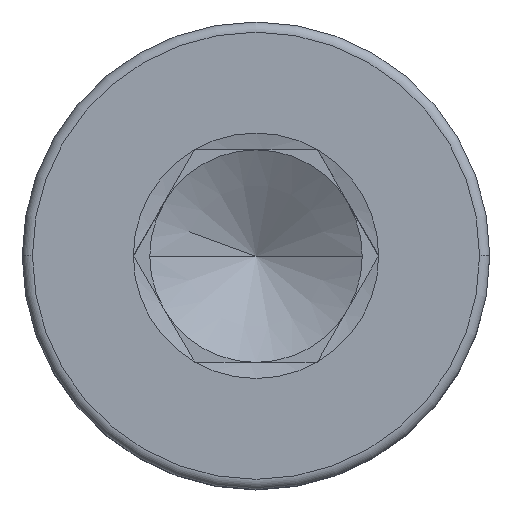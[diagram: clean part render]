
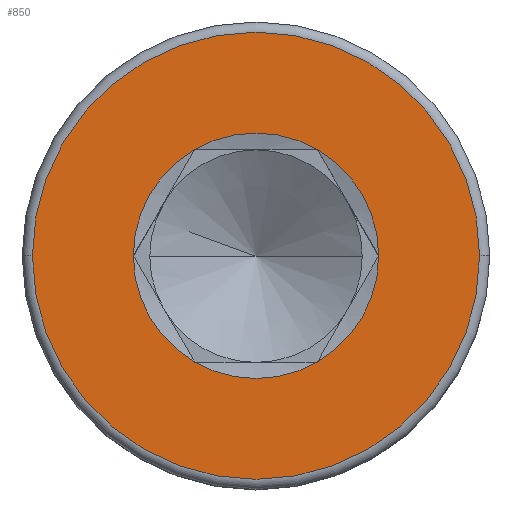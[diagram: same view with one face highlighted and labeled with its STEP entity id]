
A CAD part, top view. The second image highlights one B-rep face of the part: STEP entity #850.
In plain terms, the highlighted planar face has unit normal (0, 0, 1).
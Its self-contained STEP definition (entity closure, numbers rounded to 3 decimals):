
#32 = AXIS2_PLACEMENT_3D ( 'NONE', #741, #1591, #1568 ) ;
#124 = DIRECTION ( 'NONE',  ( 0., 0., 1. ) ) ;
#151 = CIRCLE ( 'NONE', #32, 2.63 ) ;
#195 = ORIENTED_EDGE ( 'NONE', *, *, #1472, .F. ) ;
#203 = CARTESIAN_POINT ( 'NONE',  ( 0., 0., 3. ) ) ;
#280 = CARTESIAN_POINT ( 'NONE',  ( 0.722, 1.25, 3. ) ) ;
#319 = EDGE_LOOP ( 'NONE', ( #390, #1843, #195, #682, #1585, #888 ) ) ;
#328 = CIRCLE ( 'NONE', #702, 2.63 ) ;
#330 = VERTEX_POINT ( 'NONE', #280 ) ;
#343 = DIRECTION ( 'NONE',  ( 0., 0., 1. ) ) ;
#347 = CARTESIAN_POINT ( 'NONE',  ( 0., 0., 3. ) ) ;
#354 = CIRCLE ( 'NONE', #383, 1.443 ) ;
#362 = CIRCLE ( 'NONE', #1435, 1.443 ) ;
#366 = EDGE_CURVE ( 'NONE', #910, #1074, #1094, .T. ) ;
#369 = EDGE_CURVE ( 'NONE', #1027, #1345, #354, .T. ) ;
#383 = AXIS2_PLACEMENT_3D ( 'NONE', #1171, #384, #987 ) ;
#384 = DIRECTION ( 'NONE',  ( 0., 0., 1. ) ) ;
#390 = ORIENTED_EDGE ( 'NONE', *, *, #556, .F. ) ;
#402 = CARTESIAN_POINT ( 'NONE',  ( -2.63, 0., 3. ) ) ;
#431 = FACE_BOUND ( 'NONE', #319, .T. ) ;
#509 = AXIS2_PLACEMENT_3D ( 'NONE', #1653, #966, #1099 ) ;
#556 = EDGE_CURVE ( 'NONE', #1345, #330, #1673, .T. ) ;
#581 = DIRECTION ( 'NONE',  ( 1., 0., 0. ) ) ;
#636 = CARTESIAN_POINT ( 'NONE',  ( 0., 0., 3. ) ) ;
#640 = AXIS2_PLACEMENT_3D ( 'NONE', #203, #792, #1378 ) ;
#651 = CARTESIAN_POINT ( 'NONE',  ( -1.443, 0., 3. ) ) ;
#665 = CIRCLE ( 'NONE', #765, 1.443 ) ;
#682 = ORIENTED_EDGE ( 'NONE', *, *, #1658, .F. ) ;
#691 = CARTESIAN_POINT ( 'NONE',  ( -0.722, -1.25, 3. ) ) ;
#695 = CARTESIAN_POINT ( 'NONE',  ( 0., 0., 3. ) ) ;
#702 = AXIS2_PLACEMENT_3D ( 'NONE', #636, #343, #1393 ) ;
#741 = CARTESIAN_POINT ( 'NONE',  ( 0., 0., 3. ) ) ;
#765 = AXIS2_PLACEMENT_3D ( 'NONE', #347, #1663, #942 ) ;
#792 = DIRECTION ( 'NONE',  ( 0., 0., 1. ) ) ;
#850 = ADVANCED_FACE ( 'NONE', ( #901, #431 ), #889, .T. ) ;
#852 = AXIS2_PLACEMENT_3D ( 'NONE', #1877, #124, #1477 ) ;
#856 = EDGE_LOOP ( 'NONE', ( #1437, #1304 ) ) ;
#888 = ORIENTED_EDGE ( 'NONE', *, *, #1056, .F. ) ;
#889 = PLANE ( 'NONE',  #852 ) ;
#901 = FACE_OUTER_BOUND ( 'NONE', #856, .T. ) ;
#910 = VERTEX_POINT ( 'NONE', #1193 ) ;
#942 = DIRECTION ( 'NONE',  ( 1., 0., 0. ) ) ;
#966 = DIRECTION ( 'NONE',  ( 0., 0., 1. ) ) ;
#987 = DIRECTION ( 'NONE',  ( 1., 0., 0. ) ) ;
#991 = DIRECTION ( 'NONE',  ( 0., 0., 1. ) ) ;
#1027 = VERTEX_POINT ( 'NONE', #1645 ) ;
#1056 = EDGE_CURVE ( 'NONE', #330, #910, #665, .T. ) ;
#1074 = VERTEX_POINT ( 'NONE', #651 ) ;
#1094 = CIRCLE ( 'NONE', #1517, 1.443 ) ;
#1099 = DIRECTION ( 'NONE',  ( 1., 0., 0. ) ) ;
#1171 = CARTESIAN_POINT ( 'NONE',  ( 0., 0., 3. ) ) ;
#1185 = CARTESIAN_POINT ( 'NONE',  ( 2.63, 0., 3. ) ) ;
#1193 = CARTESIAN_POINT ( 'NONE',  ( -0.722, 1.25, 3. ) ) ;
#1255 = CIRCLE ( 'NONE', #640, 1.443 ) ;
#1304 = ORIENTED_EDGE ( 'NONE', *, *, #1436, .T. ) ;
#1312 = EDGE_CURVE ( 'NONE', #1800, #1600, #151, .T. ) ;
#1345 = VERTEX_POINT ( 'NONE', #1474 ) ;
#1378 = DIRECTION ( 'NONE',  ( 1., 0., 0. ) ) ;
#1393 = DIRECTION ( 'NONE',  ( 1., 0., 0. ) ) ;
#1413 = DIRECTION ( 'NONE',  ( 1., 0., 0. ) ) ;
#1435 = AXIS2_PLACEMENT_3D ( 'NONE', #1863, #991, #1413 ) ;
#1436 = EDGE_CURVE ( 'NONE', #1600, #1800, #328, .T. ) ;
#1437 = ORIENTED_EDGE ( 'NONE', *, *, #1312, .T. ) ;
#1451 = DIRECTION ( 'NONE',  ( 0., 0., 1. ) ) ;
#1472 = EDGE_CURVE ( 'NONE', #1616, #1027, #1255, .T. ) ;
#1474 = CARTESIAN_POINT ( 'NONE',  ( 1.443, 0., 3. ) ) ;
#1477 = DIRECTION ( 'NONE',  ( 1., 0., 0. ) ) ;
#1517 = AXIS2_PLACEMENT_3D ( 'NONE', #695, #1451, #581 ) ;
#1568 = DIRECTION ( 'NONE',  ( 1., 0., 0. ) ) ;
#1585 = ORIENTED_EDGE ( 'NONE', *, *, #366, .F. ) ;
#1591 = DIRECTION ( 'NONE',  ( 0., 0., 1. ) ) ;
#1600 = VERTEX_POINT ( 'NONE', #402 ) ;
#1616 = VERTEX_POINT ( 'NONE', #691 ) ;
#1645 = CARTESIAN_POINT ( 'NONE',  ( 0.722, -1.25, 3. ) ) ;
#1653 = CARTESIAN_POINT ( 'NONE',  ( 0., 0., 3. ) ) ;
#1658 = EDGE_CURVE ( 'NONE', #1074, #1616, #362, .T. ) ;
#1663 = DIRECTION ( 'NONE',  ( 0., 0., 1. ) ) ;
#1673 = CIRCLE ( 'NONE', #509, 1.443 ) ;
#1800 = VERTEX_POINT ( 'NONE', #1185 ) ;
#1843 = ORIENTED_EDGE ( 'NONE', *, *, #369, .F. ) ;
#1863 = CARTESIAN_POINT ( 'NONE',  ( 0., 0., 3. ) ) ;
#1877 = CARTESIAN_POINT ( 'NONE',  ( 0., 0., 3. ) ) ;
